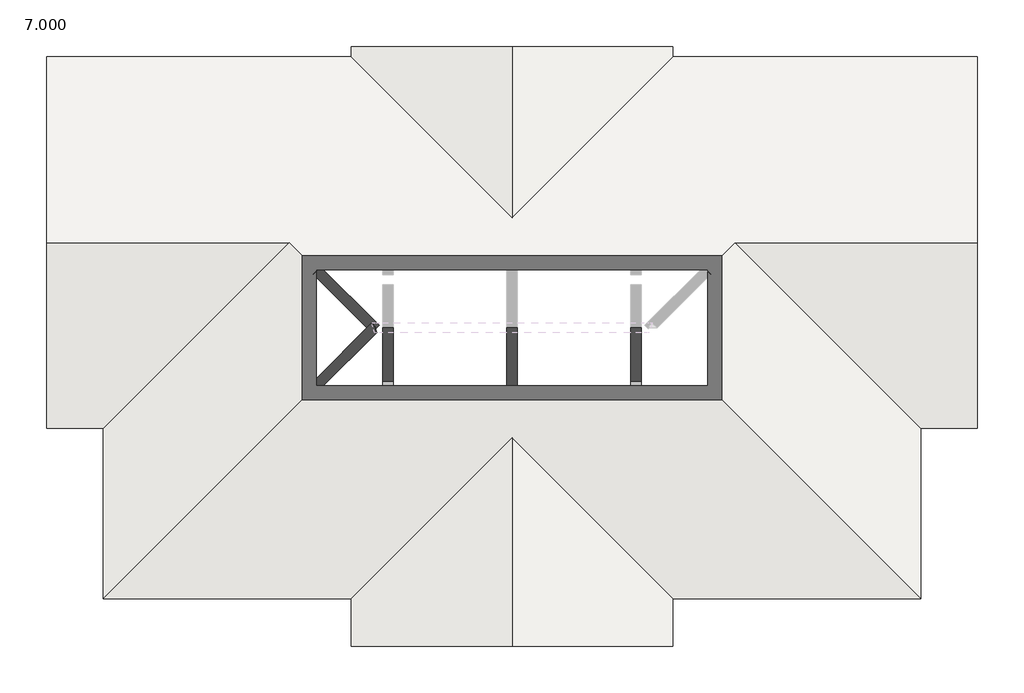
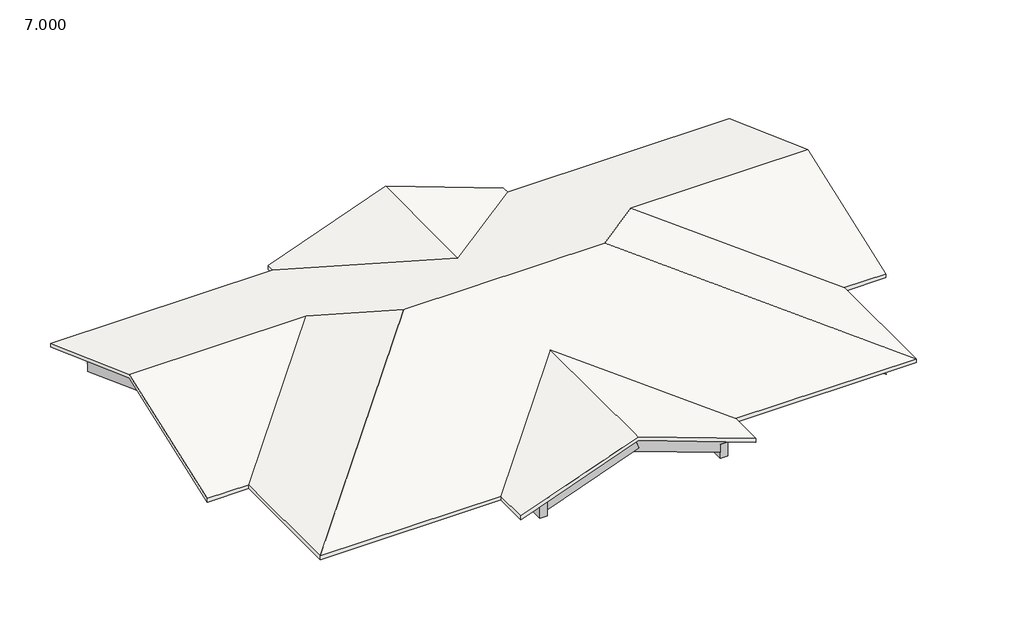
# One storey, part 1 of 2: 19 beams, 1 roof.
"""IFC4 building model written with IfcOpenShell, lengths in millimetres."""

import ifcopenshell
import ifcopenshell.guid

model = None  # the IFC model being written
_history = None  # IfcOwnerHistory: only IFC2X3 demands one
_inside = {}  # id of a spatial element -> (the spatial element, [elements in it])
_under = {}  # id of a project, library or spatial element -> (it, [spatial elements below it])
_declared = {}  # id of a project -> (the project, [libraries it declares])
_typed = {}  # id of a type object -> (the type object, [elements of that type])
_made_of = {}  # id of a material, layer set ... -> (it, [elements and type objects made of it])


def new_model(schema):
    """Start an empty IFC model of exactly this schema.

    Asked for "IFC4X3", IfcOpenShell would pick the latest addendum, in which some entities
    have other attributes; the version numbers below select the first issue.
    IFC2X3 requires an IfcOwnerHistory on every rooted entity: one is made here for all.
    """
    global model, _history
    if schema == "IFC4X3":
        model = ifcopenshell.file(schema_version=(4, 3, 0, 0))
    else:
        model = ifcopenshell.file(schema=schema)
    _inside.clear()
    _under.clear()
    _declared.clear()
    _typed.clear()
    _made_of.clear()
    _history = None
    if model.schema == "IFC2X3":
        org = make("IfcOrganization", Name="unknown")
        user = make(
            "IfcPersonAndOrganization",
            ThePerson=make("IfcPerson", FamilyName="unknown"),
            TheOrganization=org,
        )
        app = make(
            "IfcApplication",
            ApplicationDeveloper=org,
            Version="unknown",
            ApplicationFullName="unknown",
            ApplicationIdentifier="unknown",
        )
        _history = make(
            "IfcOwnerHistory",
            OwningUser=user,
            OwningApplication=app,
            ChangeAction="ADDED",
            CreationDate=0,
        )
    return model


def make(cls, **values):
    """One entity of the class cls with the attributes given. An attribute that is None is left unset."""
    return model.create_entity(
        cls, **{name: value for name, value in values.items() if value is not None}
    )


def rooted(cls, **values):
    """An entity with a GlobalId (a new one), such as an element, a storey or a relation."""
    return make(cls, GlobalId=ifcopenshell.guid.new(), OwnerHistory=_history, **values)


def si_unit(unit_type, name, prefix=None):
    """IfcSIUnit, for example si_unit("LENGTHUNIT", "METRE", prefix="MILLI")."""
    return make("IfcSIUnit", UnitType=unit_type, Prefix=prefix, Name=name)


def assignment(units):
    """IfcUnitAssignment: the units of a project."""
    return None if units is None else make("IfcUnitAssignment", Units=units)


def point(xyz):
    """IfcCartesianPoint."""
    return None if xyz is None else make("IfcCartesianPoint", Coordinates=xyz)


def direction(xyz):
    """IfcDirection."""
    return None if xyz is None else make("IfcDirection", DirectionRatios=xyz)


def frame(location, z_axis=None, x_axis=None):
    """IfcAxis2Placement3D, a coordinate frame: its origin and axes. An axis left out is left unset."""
    return make(
        "IfcAxis2Placement3D",
        Location=point(location),
        Axis=direction(z_axis),
        RefDirection=direction(x_axis),
    )


def origin():
    """The frame at (0, 0, 0) with its axes left unset."""
    return frame((0.0, 0.0, 0.0))


def place(relative_to, where):
    """IfcLocalPlacement: puts the frame where relative to a parent placement (None: the world)."""
    return make(
        "IfcLocalPlacement", PlacementRelTo=relative_to, RelativePlacement=where
    )


def context(
    kind, dimensions, precision=None, world=None, true_north=None, identifier=None
):
    """IfcGeometricRepresentationContext, for example the 3D "Model" context."""
    return make(
        "IfcGeometricRepresentationContext",
        ContextIdentifier=identifier,
        ContextType=kind,
        CoordinateSpaceDimension=dimensions,
        Precision=precision,
        WorldCoordinateSystem=world,
        TrueNorth=true_north,
    )


def project(units=None, contexts=None):
    """IfcProject with its units and contexts."""
    return rooted(
        "IfcProject",
        Name="project",
        RepresentationContexts=contexts,
        UnitsInContext=assignment(units),
    )


def spatial(cls, under=None, at=None, **own):
    """A site, building, storey or space (cls), placed at a placement, below another one or the project."""
    s = rooted(cls, ObjectPlacement=at, **own)
    if under is not None:
        _under.setdefault(under.id(), (under, []))[1].append(s)
    return s


def polyline(points):
    """IfcPolyline through the points."""
    return make("IfcPolyline", Points=[point(p) for p in points])


def outline(outer, holes=None, kind="AREA"):
    """IfcArbitraryClosedProfileDef: a profile drawn as a closed curve; with holes, ...WithVoids."""
    if holes is None:
        return make("IfcArbitraryClosedProfileDef", ProfileType=kind, OuterCurve=outer)
    return make(
        "IfcArbitraryProfileDefWithVoids",
        ProfileType=kind,
        OuterCurve=outer,
        InnerCurves=holes,
    )


def extrude(swept, where, along, depth):
    """IfcExtrudedAreaSolid: the profile swept, set in the frame where, extruded along a direction by depth."""
    return make(
        "IfcExtrudedAreaSolid",
        SweptArea=swept,
        Position=where,
        ExtrudedDirection=direction(along),
        Depth=depth,
    )


def faces_of(points, faces, orient=None, outer=None):
    """IfcFace entities. A face is a list of loops; a loop is a list of indices into points, from 0.

    orient and outer hold one flag for each loop. By default every Orientation is true, the
    first loop of a face is its IfcFaceOuterBound and the others are IfcFaceBound.
    """
    made = []
    for i, loops in enumerate(faces):
        bounds = []
        for j, loop in enumerate(loops):
            is_outer = j == 0 if outer is None else outer[i][j]
            bounds.append(
                make(
                    "IfcFaceOuterBound" if is_outer else "IfcFaceBound",
                    Bound=make("IfcPolyLoop", Polygon=[points[k] for k in loop]),
                    Orientation=True if orient is None else orient[i][j],
                )
            )
        made.append(make("IfcFace", Bounds=bounds))
    return made


def faceted_brep(points, faces, orient=None, outer=None, voids=None):
    """IfcFacetedBrep: a solid bounded by flat faces; with voids (closed shells), ...WithVoids."""
    shared = [point(p) for p in points]
    hull = make("IfcClosedShell", CfsFaces=faces_of(shared, faces, orient, outer))
    if voids is None:
        return make("IfcFacetedBrep", Outer=hull)
    return make(
        "IfcFacetedBrepWithVoids",
        Outer=hull,
        Voids=[
            make(cls, CfsFaces=faces_of(shared, fs, o, b)) for cls, fs, o, b in voids
        ],
    )


def shape(context_of_items, identifier, shape_type, items):
    """IfcShapeRepresentation: the items that make up one representation, for example the "Body"."""
    return make(
        "IfcShapeRepresentation",
        ContextOfItems=context_of_items,
        RepresentationIdentifier=identifier,
        RepresentationType=shape_type,
        Items=items,
    )


def made_of(thing, what):
    """Note that an element or type object is made of a material, layer set ...; save() writes the relation."""
    if what is not None:
        _made_of.setdefault(what.id(), (what, []))[1].append(thing)
    return thing


def element(
    cls,
    number,
    at=None,
    inside=None,
    cuts=None,
    type_object=None,
    material=None,
    context=None,
    identifier="Body",
    shape_type=None,
    held_by="IfcProductDefinitionShape",
    body=None,
    shapes=None,
    **own,
):
    """One element of the class cls, such as IfcWall. Its Tag is "e" and its number.

    at: its placement. inside: the storey or other place that contains it. cuts: it is an
    opening in that element (IfcRelVoidsElement). A single representation is given by context,
    identifier, shape_type and body (its items); several are given by shapes. held_by: the class
    of the entity that holds the representations. save() writes the other relations.
    """
    e = rooted(cls, Tag="e%d" % number, ObjectPlacement=at, **own)
    if body is not None:
        shapes = [shape(context, identifier, shape_type, body)]
    if shapes is not None:
        e.Representation = make(held_by, Representations=shapes)
    if inside is not None:
        _inside.setdefault(inside.id(), (inside, []))[1].append(e)
    if cuts is not None:
        rooted(
            "IfcRelVoidsElement", RelatingBuildingElement=cuts, RelatedOpeningElement=e
        )
    if type_object is not None:
        _typed.setdefault(type_object.id(), (type_object, []))[1].append(e)
    return made_of(e, material)


def aggregate(whole, parts):
    """IfcRelAggregates: a whole, such as a stair, and the parts it consists of."""
    return rooted("IfcRelAggregates", RelatingObject=whole, RelatedObjects=parts)


def save(model, path):
    """Write the relations noted so far, then the file.

    IfcRelAggregates (storeys below a building ...), IfcRelContainedInSpatialStructure (elements
    in a storey), IfcRelDefinesByType, IfcRelAssociatesMaterial and IfcRelDeclares: one each for
    every whole, place, type object, material and project.
    """
    for whole, parts in _under.values():
        aggregate(whole, parts)
    for where, things in _inside.values():
        rooted(
            "IfcRelContainedInSpatialStructure",
            RelatedElements=things,
            RelatingStructure=where,
        )
    for kind, things in _typed.values():
        rooted("IfcRelDefinesByType", RelatedObjects=things, RelatingType=kind)
    for what, things in _made_of.values():
        rooted("IfcRelAssociatesMaterial", RelatedObjects=things, RelatingMaterial=what)
    for by, libraries in _declared.values():
        rooted("IfcRelDeclares", RelatingContext=by, RelatedDefinitions=libraries)
    model.write(path)


model = new_model("IFC4")

# Units and contexts
model_context = context("Model", 3, world=origin())
ifc_project = project(units=[si_unit("LENGTHUNIT", "METRE", prefix="MILLI")], contexts=[model_context])

# Site, building, storey
site = spatial("IfcSite", under=ifc_project)
building = spatial("IfcBuilding", under=site)
storey = spatial("IfcBuildingStorey", under=building, Name="7.000", Elevation=7000.0)

# Beams
placement = place(None, origin())
element("IfcBeam", 1, ObjectType="混凝土 - 矩形梁 : 200 x 400mm", at=placement, inside=storey, context=model_context, shape_type="Brep", body=[
    faceted_brep([(-13418.804129, 2600.2421091, 8004.2928434), (-13418.804129, 80.2421091, 7159.8818999), (-13218.804129, 80.2421091, 7159.8818999), (-13218.804129, 2500.2421091, 7970.7844726), (-13218.804129, 2600.2421091, 8004.2928434), (-13218.804129, 280.2421091, 7159.8818999), (-13218.804129, 280.2421091, 6805.0396903), (-13218.804129, 2593.8162411, 7580.2806886), (-13218.804129, 2727.3305426, 7625.0191558), (-13418.804129, 2727.3305426, 7625.0191558), (-13418.804129, 280.2421091, 6805.0396903), (-13418.804129, 2593.8162411, 7580.2806886), (-13418.804129, 280.2421091, 7159.8818999)], [[[0, 1, 2, 3, 4]], [[4, 3, 2, 5, 6, 7, 8]], [[9, 8, 7, 6, 10, 11]], [[1, 0, 9, 11, 10, 12]], [[5, 12, 10, 6]], [[12, 5, 2, 1]], [[0, 4, 8, 9]]]),
])
element("IfcBeam", 2, ObjectType="混凝土 - 矩形梁 : 200 x 400mm", at=placement, inside=storey, context=model_context, shape_type="Brep", body=[
    faceted_brep([(-13418.804129, 4880.2421091, 7162.6295294), (-13418.804129, 2600.2421091, 8004.2928434), (-13218.804129, 2600.2421091, 8004.2928434), (-13218.804129, 2700.2421091, 7967.3777857), (-13218.804129, 4880.2421091, 7162.6295294), (-13218.804129, 2727.3305426, 7625.0191558), (-13218.804129, 2593.8162411, 7580.2806886), (-13218.804129, 4880.2421091, 6736.2452618), (-13418.804129, 4880.2421091, 6736.2452618), (-13418.804129, 2593.8162411, 7580.2806886), (-13418.804129, 2727.3305426, 7625.0191558)], [[[0, 1, 2, 3, 4]], [[4, 3, 2, 5, 6, 7]], [[8, 7, 6, 9]], [[1, 0, 8, 9, 10]], [[0, 4, 7, 8]], [[5, 10, 9, 6]], [[10, 5, 2, 1]]]),
])
element("IfcBeam", 3, ObjectType="混凝土 - 矩形梁 : 200 x 400mm", at=placement, inside=storey, context=model_context, shape_type="Brep", body=[
    faceted_brep([(-7118.804129, -3099.7578909, 7043.1568194), (-6918.804129, -3099.7578909, 7043.1568194), (-6918.804129, 850.2421091, 8566.2835593), (-7118.804129, 850.2421091, 8566.2835593), (-7118.804129, 950.2421091, 8176.1361511), (-7118.804129, -3099.7578909, 6614.4492406), (-7118.804129, 850.2421091, 8204.8437299), (-7118.804129, 950.2421091, 8204.8437299), (-7118.804129, 950.2421091, 8179.736715), (-6918.804129, 950.2421091, 8176.1361511), (-6918.804129, -3099.7578909, 6614.4492406), (-6918.804129, 950.2421091, 8179.736715), (-6918.804129, 950.2421091, 8204.8437299), (-6918.804129, 850.2421091, 8204.8437299)], [[[0, 1, 2, 3]], [[4, 5, 0, 3, 6, 7, 8]], [[9, 10, 5, 4]], [[10, 9, 11, 12, 13, 2, 1]], [[1, 0, 5, 10]], [[9, 4, 8, 7, 12, 11]], [[13, 6, 3, 2]], [[6, 13, 12, 7]]]),
])
element("IfcBeam", 4, ObjectType="混凝土 - 矩形梁 : 200 x 400mm", at=placement, inside=storey, context=model_context, shape_type="Brep", body=[
    faceted_brep([(-2318.804129, -3099.7578909, 7015.7932597), (-2118.804129, -3099.7578909, 7015.7932597), (-2118.804129, 850.2421091, 8573.2767595), (-2318.804129, 850.2421091, 8573.2767595), (-2318.804129, 950.2421091, 8182.7351522), (-2318.804129, -3099.7578909, 6585.8216903), (-2318.804129, 850.2421091, 8204.8437299), (-2318.804129, 950.2421091, 8204.8437299), (-2318.804129, 950.2421091, 8189.0957901), (-2118.804129, 950.2421091, 8182.7351522), (-2118.804129, -3099.7578909, 6585.8216903), (-2118.804129, 950.2421091, 8189.0957901), (-2118.804129, 950.2421091, 8204.8437299), (-2118.804129, 850.2421091, 8204.8437299)], [[[0, 1, 2, 3]], [[4, 5, 0, 3, 6, 7, 8]], [[5, 4, 9, 10]], [[10, 9, 11, 12, 13, 2, 1]], [[1, 0, 5, 10]], [[13, 6, 3, 2]], [[6, 13, 12, 7]], [[9, 4, 8, 7, 12, 11]]]),
    faceted_brep([(-2318.804129, 950.2421091, 8612.7067216), (-2118.804129, 950.2421091, 8612.7067216), (-2118.804129, 950.2421091, 8604.8437299), (-2318.804129, 950.2421091, 8604.8437299), (-2118.804129, 930.3004423, 8604.8437299), (-2318.804129, 930.3004423, 8604.8437299)], [[[0, 1, 2, 3]], [[4, 5, 3, 2]], [[1, 0, 5, 4]], [[0, 3, 5]], [[1, 4, 2]]]),
])
element("IfcBeam", 5, ObjectType="混凝土 - 矩形梁 : 200 x 400mm", at=placement, inside=storey, context=model_context, shape_type="Brep", body=[
    faceted_brep([(-7333.6516851, 1046.8159093, 8614.2571365), (-12020.88562, -3640.4180256, 6908.2435031), (-11961.5457547, -3699.7578909, 6908.2435031), (-11938.804129, -3699.7578909, 6912.3821406), (-11868.0934509, -3770.468569, 6912.3821406), (-7270.9988323, 826.6260496, 8585.5877458), (-7302.3775651, 936.9048073, 8599.9463761), (-7306.1725628, 950.2421091, 8601.6829334), (-7239.767191, 857.8576909, 8183.9200909), (-11797.3827728, -3699.7578909, 6912.3821406), (-11797.3827728, -3699.7578909, 6800.0), (-11797.3827728, -3699.7578909, 6525.0836799), (-11718.804129, -3621.1792471, 6553.6839673), (-12020.88562, -3640.4180256, 6495.2084604), (-11918.804129, -3538.3365347, 6532.3630846), (-11718.804129, -3338.3365347, 6605.1571315), (-7430.2254852, 950.2421091, 8166.0721051), (-7302.4200438, 1078.0475506, 8212.5894816), (-7294.5082796, 1050.2421091, 8208.9691284), (-7285.4928113, 1018.5577625, 8204.8437299), (-7266.054266, 950.2421091, 8195.9488237), (-11918.804129, -3699.7578909, 6502.9868002), (-11961.5457547, -3699.7578909, 6495.2084604), (-7330.9186001, 1049.5489943, 8579.1071478), (-7330.2254852, 1050.2421091, 8570.1930533)], [[[0, 1, 2, 3, 4, 5, 6, 7]], [[8, 5, 4, 9, 10, 11, 12]], [[13, 14, 15, 16, 17, 18, 19, 20, 8, 12, 11, 21, 22]], [[1, 0, 23, 24, 17, 16, 15, 14, 13]], [[1, 13, 22, 2]], [[9, 3, 2, 22, 21, 11, 10]], [[3, 9, 4]], [[0, 7, 6, 5, 8, 20, 19, 18, 17, 24, 23]]]),
])
element("IfcBeam", 6, ObjectType="混凝土 - 矩形梁 : 200 x 400mm", at=placement, inside=storey, context=model_context, shape_type="Brep", body=[
    faceted_brep([(-7288.804129, 950.2421091, 8604.8437299), (-7151.7754868, 954.6348231, 8628.9814948), (-7218.0934509, 1020.9527872, 8604.8437299), (-7147.3827728, 950.2421091, 8604.8437299)], [[[0, 1, 2]], [[2, 1, 3]], [[1, 0, 3]], [[0, 2, 3]]]),
    faceted_brep([(-7360.1352738, 880.1518977, 8579.1071478), (-7364.489443, 884.5060668, 8603.0331105), (-7430.2254852, 950.2421091, 8579.1071478), (-7302.3775651, 936.9048073, 8599.9463761), (-7303.0823268, 937.8408628, 8604.5021526), (-7306.1725628, 950.2421091, 8601.6829334)], [[[0, 1, 2]], [[1, 0, 3, 4]], [[2, 5, 3, 0]], [[2, 1, 4, 5]], [[5, 4, 3]]]),
    faceted_brep([(-7430.2254852, 950.2421091, 8166.0721051), (-9080.2254852, 2600.2421091, 7565.5212186), (-8840.4695794, 2600.2421091, 7609.1532252), (-8941.0695596, 2500.2421091, 7609.0440377), (-8697.3827728, 2500.2421091, 7653.3914061), (-7182.2799654, 985.1393017, 8204.8437299), (-7256.3042761, 911.1149909, 8204.8437299), (-7266.054266, 950.2421091, 8195.9488237), (-7302.4200438, 1078.0475506, 8212.5894816), (-7285.4928113, 1018.5577625, 8204.8437299), (-7294.5082796, 1050.2421091, 8208.9691284), (-7330.2254852, 1050.2421091, 8570.1930533), (-7330.9186001, 1049.5489943, 8579.1071478), (-7430.2254852, 950.2421091, 8579.1071478), (-8996.6260306, 2516.6426544, 8008.9839744), (-8980.2254852, 2500.2421091, 8009.0017749), (-8980.2254852, 2500.2421091, 7609.0015393), (-9080.2254852, 2600.2421091, 7608.893003), (-7294.1003673, 1050.2421091, 8204.8437299), (-7247.3827728, 1050.2421091, 8204.8437299), (-7247.3827728, 1050.2421091, 8594.1832886), (-7331.0913156, 1050.2421091, 8578.9495796), (-8797.3827728, 2600.2421091, 8030.0294254), (-8912.5249957, 2600.2421091, 8009.0752545), (-8697.3827728, 2500.2421091, 8009.3087619), (-8797.3827728, 2600.2421091, 8009.2002256)], [[[0, 1, 2, 3, 4, 5, 6, 7]], [[8, 0, 7, 9, 10]], [[0, 8, 11, 12, 13]], [[8, 10, 11]], [[1, 0, 13, 14, 15, 16, 17]], [[18, 9, 6, 5, 19]], [[10, 18, 19, 20, 21, 11]], [[11, 21, 12]], [[13, 12, 21, 20, 22, 23, 14]], [[22, 20, 19, 5, 4, 24, 25]], [[7, 6, 9]], [[9, 18, 10]], [[23, 22, 25]], [[24, 15, 14, 23, 25]], [[15, 24, 4, 3, 16]], [[16, 3, 2, 17]], [[2, 1, 17]]]),
])
element("IfcBeam", 7, ObjectType="混凝土 - 矩形梁 : 200 x 400mm", at=placement, inside=storey, context=model_context, shape_type="SweptSolid", body=[
    extrude(outline(polyline([(-11618.804129, -3919.7578909), (-11618.804129, -3719.7578909), (-7138.804129, -3719.7578909), (-7138.804129, -3919.7578909), (-11618.804129, -3919.7578909)])), frame((0.0, 0.0, 6400.0), z_axis=(0.0, 0.0, 1.0), x_axis=(1.0, 0.0, 0.0)), (0.0, 0.0, 1.0), 400.0),
])
element("IfcBeam", 8, ObjectType="混凝土 - 矩形梁 : 200 x 400mm", at=placement, inside=storey, context=model_context, shape_type="Brep", body=[
    faceted_brep([(-11718.804129, 180.2421091, 6800.0), (-11918.804129, 180.2421091, 6800.0), (-11918.804129, -19.7578909, 6800.0), (-11918.804129, -3538.3365347, 6800.0), (-11718.804129, -3338.3365347, 6800.0), (-11718.804129, -321.1792471, 6800.0), (-11718.804129, -38.3365347, 6800.0), (-11718.804129, -3699.7578909, 6800.0), (-11718.804129, -3699.7578909, 6400.0), (-11718.804129, 180.2421091, 6400.0), (-11718.804129, -3338.3365347, 6605.1571315), (-11718.804129, -3621.1792471, 6553.6839673), (-11718.804129, -3621.1792471, 6800.0), (-11918.804129, -3699.7578909, 6400.0), (-11918.804129, -19.7578909, 6400.0), (-11918.804129, 180.2421091, 6400.0), (-11918.804129, -3699.7578909, 6502.9868002), (-11918.804129, -3538.3365347, 6532.3630846), (-11797.3827728, -3699.7578909, 6800.0), (-11797.3827728, -3699.7578909, 6525.0836799)], [[[0, 1, 2, 3, 4, 5, 6]], [[7, 8, 9, 0, 6, 5, 4, 10, 11, 12]], [[8, 13, 14, 15, 9]], [[1, 15, 14, 13, 16, 17, 3, 2]], [[8, 7, 18, 19, 16, 13]], [[11, 19, 18, 12]], [[19, 11, 10, 17, 16]], [[17, 10, 4, 3]], [[1, 0, 9, 15]], [[18, 7, 12]]]),
])
element("IfcBeam", 9, ObjectType="混凝土 - 矩形梁 : 200 x 400mm", at=placement, inside=storey, context=model_context, shape_type="SweptSolid", body=[
    extrude(outline(polyline([(-13198.804129, -19.7578909), (-13198.804129, 180.2421091), (-11918.804129, 180.2421091), (-11918.804129, -19.7578909), (-13198.804129, -19.7578909)])), frame((0.0, 0.0, 6400.0), z_axis=(0.0, 0.0, 1.0), x_axis=(1.0, 0.0, 0.0)), (0.0, 0.0, 1.0), 400.0),
])
element("IfcBeam", 10, ObjectType="混凝土 - 矩形梁 : 200 x 400mm", at=placement, inside=storey, context=model_context, shape_type="Brep", body=[
    faceted_brep([(2481.195871, -19.7578909, 6800.0), (2481.195871, -38.544674, 6800.0), (2481.195871, -321.3982513, 6800.0), (2481.195871, -3305.7785462, 6800.0), (2672.8600267, -3699.7578909, 6800.0), (2681.195871, -3699.7578909, 6800.0), (2681.195871, -19.7578909, 6800.0), (2481.195871, -19.7578909, 6400.0), (2481.195871, -3597.0695635, 6400.0), (2681.195871, -19.7578909, 6400.0), (2590.5319359, -3699.7578909, 6567.6121083), (2531.151971, -3699.7578909, 6400.0), (2681.195871, -3699.7578909, 6400.0)], [[[0, 1, 2, 3, 4, 5, 6]], [[3, 2, 1, 0, 7, 8]], [[0, 6, 9, 7]], [[5, 4, 10, 11, 12]], [[3, 8, 11, 10, 4]], [[8, 7, 9, 12, 11]], [[9, 6, 5, 12]]]),
    faceted_brep([(2681.195871, -4008.1838309, 6400.0), (2647.9078314, -3939.7578909, 6400.0), (2681.195871, -3939.7578909, 6400.0), (2681.195871, -3939.7578909, 6493.962307)], [[[0, 1, 2]], [[3, 0, 2]], [[2, 1, 3]], [[1, 0, 3]]]),
])
element("IfcBeam", 11, ObjectType="混凝土 - 矩形梁 : 200 x 400mm", at=placement, inside=storey, context=model_context, shape_type="SweptSolid", body=[
    extrude(outline(polyline([(-2098.804129, -3919.7578909), (-2098.804129, -3719.7578909), (2381.195871, -3719.7578909), (2381.195871, -3919.7578909), (-2098.804129, -3919.7578909)])), frame((0.0, 0.0, 6400.0), z_axis=(0.0, 0.0, 1.0), x_axis=(1.0, 0.0, 0.0)), (0.0, 0.0, 1.0), 400.0),
])
element("IfcBeam", 12, ObjectType="混凝土 - 矩形梁 : 200 x 400mm", at=placement, inside=storey, context=model_context, shape_type="Brep", body=[
    faceted_brep([(-11818.804129, -138.3365347, 7024.657718), (-11818.804129, -421.1792471, 6975.342282), (-8897.3827728, 2500.2421091, 7994.0792821), (-9180.2254852, 2500.2421091, 7944.763846), (-9180.2254852, 2500.2421091, 7608.7844668), (-9080.2254852, 2600.2421091, 7608.893003), (-9080.2254852, 2600.2421091, 7567.6544838), (-11718.804129, -38.3365347, 6647.5483559), (-11718.804129, -38.3365347, 6800.0), (-11818.804129, -138.3365347, 6800.0), (-8842.2254091, 2600.2421091, 7609.1513195), (-8819.7340871, 2577.8907948, 7609.1757307), (-11718.804129, -321.1792471, 6598.2329198), (-8897.3827728, 2500.2421091, 7609.0914537), (-11818.804129, -421.1792471, 6800.0), (-11718.804129, -321.1792471, 6800.0)], [[[0, 1, 2, 3]], [[0, 3, 4, 5, 6, 7, 8, 9]], [[10, 11, 12, 7, 6]], [[13, 2, 1, 14, 15, 12, 11]], [[1, 0, 9, 14]], [[13, 4, 3, 2]], [[4, 13, 11, 10, 5]], [[8, 15, 14, 9]], [[15, 8, 7, 12]], [[5, 10, 6]]]),
    faceted_brep([(-8797.3827728, 2600.2421091, 8028.9505614), (-8797.3827728, 2600.2421091, 8009.2002256), (-8911.3679866, 2600.2421091, 8009.0765103), (-8854.1974373, 2543.4274446, 8009.1385611)], [[[0, 1, 2]], [[3, 2, 1]], [[2, 3, 0]], [[1, 0, 3]]]),
])
element("IfcBeam", 13, ObjectType="混凝土 - 矩形梁 : 200 x 400mm", at=placement, inside=storey, context=model_context, shape_type="Brep", body=[
    faceted_brep([(-6918.804129, -5019.7578909, 6800.0), (-7074.7779346, -5019.7578909, 6800.0), (-7118.804129, -5019.7578909, 6800.0), (-7118.804129, -5019.7578909, 6400.0), (-6918.804129, -5019.7578909, 6400.0), (-6918.804129, -5019.7578909, 6566.7844831), (-6918.804129, -4819.7578909, 6800.0), (-6918.804129, -3939.7578909, 6800.0), (-7118.804129, -3939.7578909, 6800.0), (-7118.804129, -3939.7578909, 6400.0), (-6918.804129, -3939.7578909, 6400.0)], [[[0, 1, 2, 3, 4, 5]], [[2, 1, 0, 6, 7, 8]], [[3, 2, 8, 9]], [[4, 3, 9, 10]], [[0, 5, 4, 10, 7, 6]], [[8, 7, 10, 9]]]),
])
element("IfcBeam", 14, ObjectType="混凝土 - 矩形梁 : 200 x 400mm", at=placement, inside=storey, context=model_context, shape_type="Brep", body=[
    faceted_brep([(-2318.804129, -5019.7578909, 6800.0), (-2318.804129, -5019.7578909, 6566.7844831), (-2318.804129, -5019.7578909, 6400.0), (-2118.804129, -5019.7578909, 6400.0), (-2118.804129, -5019.7578909, 6800.0), (-2162.8303235, -5019.7578909, 6800.0), (-2118.804129, -3939.7578909, 6800.0), (-2318.804129, -3939.7578909, 6800.0), (-2318.804129, -4819.7578909, 6800.0), (-2118.804129, -3939.7578909, 6400.0), (-2318.804129, -3939.7578909, 6400.0)], [[[0, 1, 2, 3, 4, 5]], [[6, 7, 8, 0, 5, 4]], [[9, 6, 4, 3]], [[10, 9, 3, 2]], [[7, 10, 2, 1, 0, 8]], [[7, 6, 9, 10]]]),
])
element("IfcBeam", 15, ObjectType="混凝土 - 矩形梁 : 200 x 400mm", at=placement, inside=storey, context=model_context, shape_type="Brep", body=[
    faceted_brep([(-7118.3865003, -5019.7578909, 6919.8135497), (-7118.3865003, -4819.7578909, 6919.8135497), (-7074.7779346, -4819.7578909, 6800.0), (-7074.7779346, -5019.7578909, 6800.0), (-4618.804129, -5019.7578909, 7829.5871309), (-4618.804129, -4819.7578909, 7829.5871309), (-4718.804129, -4819.7578909, 7793.1901075), (-4481.9960717, -4819.7578909, 7453.7100826), (-4618.804129, -4819.7578909, 7403.9160219), (-6918.804129, -4819.7578909, 6566.7844831), (-6918.804129, -4819.7578909, 6800.0), (-4481.9960717, -5019.7578909, 7453.7100826), (-4618.804129, -5019.7578909, 7403.9160219), (-6918.804129, -5019.7578909, 6566.7844831), (-6918.804129, -5019.7578909, 6800.0)], [[[0, 1, 2, 3]], [[1, 0, 4, 5, 6]], [[1, 6, 5, 7, 8, 9, 10, 2]], [[7, 11, 12, 13, 9, 8]], [[4, 0, 3, 14, 13, 12, 11]], [[10, 14, 3, 2]], [[14, 10, 9, 13]], [[4, 11, 7, 5]]]),
])
element("IfcBeam", 16, ObjectType="混凝土 - 矩形梁 : 200 x 400mm", at=placement, inside=storey, context=model_context, shape_type="Brep", body=[
    faceted_brep([(-2119.2217577, -4819.7578909, 6919.8135497), (-2119.2217577, -5019.7578909, 6919.8135497), (-2162.8303235, -5019.7578909, 6800.0), (-2162.8303235, -4819.7578909, 6800.0), (-4518.804129, -4819.7578909, 7793.1901075), (-4618.804129, -4819.7578909, 7829.5871309), (-4618.804129, -5019.7578909, 7829.5871309), (-4481.9960717, -5019.7578909, 7453.7100826), (-4618.804129, -5019.7578909, 7403.9160219), (-2318.804129, -5019.7578909, 6566.7844831), (-2318.804129, -5019.7578909, 6800.0), (-2318.804129, -4819.7578909, 6566.7844831), (-4618.804129, -4819.7578909, 7403.9160219), (-2318.804129, -4819.7578909, 6800.0), (-4481.9960717, -4819.7578909, 7453.7100826)], [[[0, 1, 2, 3]], [[1, 0, 4, 5, 6]], [[1, 6, 7, 8, 9, 10, 2]], [[11, 9, 8, 12]], [[5, 4, 0, 3, 13, 11, 12, 14]], [[10, 13, 3, 2]], [[10, 9, 11, 13]], [[7, 14, 12, 8]], [[14, 7, 6, 5]]]),
])
element("IfcBeam", 17, ObjectType="混凝土 - 矩形梁 : 200 x 400mm", at=placement, inside=storey, context=model_context, shape_type="Brep", body=[
    faceted_brep([(-4718.804129, -1146.6081127, 7841.6526634), (-4651.7957407, -1213.2970252, 7817.3798843), (-4581.1905117, -1283.5656298, 7791.8042039), (-4518.804129, -1345.654573, 7769.2056767), (-4518.804129, -1279.7578909, 7793.1901075), (-4518.804129, 850.2421091, 8568.4467065), (-4718.804129, 850.2421091, 8568.4467065), (-4718.804129, 950.2421091, 8179.1726209), (-4718.804129, -1009.8000554, 7465.7756151), (-4718.804129, 850.2421091, 8204.8437299), (-4718.804129, 950.2421091, 8204.8437299), (-4518.804129, 950.2421091, 8179.1726209), (-4518.804129, -1138.3365347, 7418.9921627), (-4518.804129, -1208.8465157, 7393.3286283), (-4618.3029383, -1109.8220867, 7429.370573), (-4654.3823175, -1073.9147231, 7442.4397845), (-4696.4102974, -1032.0871199, 7457.663787), (-4518.804129, 950.2421091, 8204.8437299), (-4518.804129, 850.2421091, 8204.8437299), (-4518.804129, -1221.1792471, 7427.2125295)], [[[0, 1, 2, 3, 4, 5, 6]], [[7, 8, 0, 6, 9, 10]], [[8, 7, 11, 12, 13, 14, 15, 16]], [[13, 12, 11, 17, 18, 5, 4, 3, 19]], [[11, 7, 10, 17]], [[18, 9, 6, 5]], [[9, 18, 17, 10]], [[3, 2, 1, 0, 8, 16, 15, 14, 13, 19]]]),
])
element("IfcBeam", 18, ObjectType="混凝土 - 矩形梁 : 200 x 400mm", at=placement, inside=storey, context=model_context, shape_type="Brep", body=[
    faceted_brep([(-6898.804129, -3601.1792471, 6973.9984147), (-4718.804129, -1421.1792471, 7767.4535254), (-4618.804129, -1321.1792471, 7803.8505488), (-4585.3361834, -1287.7113015, 7816.0318849), (-4618.804129, -1250.2546181, 7816.7577757), (-4651.811737, -1213.3131358, 7817.4736823), (-4652.0701562, -1213.0239181, 7817.4792872), (-4718.804129, -1138.3365347, 7818.9266896), (-6898.804129, -3318.3365347, 7025.4715789), (-4673.4790985, -1093.0115042, 7554.0431035), (-4654.3823175, -1073.9147231, 7442.4397845), (-4652.2720747, -1071.8044803, 7430.1073342), (-6898.804129, -3318.3365347, 6612.4365361), (-4618.804129, -1109.2611637, 7429.3814434), (-4618.3029383, -1109.8220867, 7429.370573), (-4518.804129, -1221.1792471, 7427.2125295), (-4618.804129, -1321.1792471, 7390.8155061), (-6898.804129, -3601.1792471, 6560.963372), (-4581.1905117, -1283.5656298, 7791.8042039), (-4583.2517982, -1285.6269163, 7803.8505488)], [[[0, 1, 2, 3, 4, 5, 6, 7, 8]], [[8, 7, 9, 10, 11, 12]], [[12, 11, 13, 14, 15, 16, 17]], [[3, 2, 1, 0, 17, 16, 15, 18, 19]], [[6, 5, 4, 3, 19, 18, 15, 14, 13, 11, 10, 9, 7]], [[0, 8, 12, 17]]]),
])
element("IfcBeam", 19, ObjectType="混凝土 - 矩形梁 : 200 x 400mm", at=placement, inside=storey, context=model_context, shape_type="Brep", body=[
    faceted_brep([(-4718.804129, -1310.2986198, 7829.5871309), (-4718.804129, -4919.7578909, 7829.5871309), (-4618.804129, -4919.7578909, 7829.5871309), (-4518.804129, -4919.7578909, 7829.5871309), (-4518.804129, -1279.7578909, 7829.5871309), (-4618.804129, -1179.7578909, 7829.5871309), (-4518.804129, -4919.7578909, 7793.1901075), (-4518.804129, -4819.7578909, 7793.1901075), (-4518.804129, -4819.7578909, 7429.5871309), (-4518.804129, -1421.1792471, 7429.5871309), (-4518.804129, -1421.1792471, 7767.4535254), (-4518.804129, -1279.7578909, 7793.1901075), (-4718.804129, -4819.7578909, 7429.5871309), (-4718.804129, -1421.1792471, 7429.5871309), (-4618.804129, -1321.1792471, 7429.5871309), (-4718.804129, -1310.2986198, 7787.6321494), (-4718.804129, -1421.1792471, 7767.4535254), (-4718.804129, -4819.7578909, 7793.1901075), (-4718.804129, -4919.7578909, 7793.1901075), (-4680.1474573, -1259.8359188, 7826.1776944), (-4680.1474573, -1259.8359188, 7803.8505488), (-4618.804129, -4819.7578909, 7829.5871309), (-4618.804129, -1321.1792471, 7803.8505488), (-4585.3361834, -1287.7113015, 7816.0318849), (-4618.804129, -1250.2546181, 7816.7577757), (-4583.2517982, -1285.6269163, 7803.8505488)], [[[0, 1, 2, 3, 4, 5]], [[4, 3, 6, 7, 8, 9, 10, 11]], [[8, 12, 13, 14, 9]], [[1, 0, 15, 16, 13, 12, 17, 18]], [[0, 5, 19, 20, 15]], [[17, 21, 2, 18]], [[21, 17, 12, 8, 7]], [[2, 1, 18]], [[3, 2, 6]], [[21, 7, 6, 2]], [[5, 4, 11]], [[16, 15, 20, 22]], [[13, 16, 22, 14]], [[23, 24, 25]], [[10, 22, 25, 24, 22, 19, 5, 11]], [[22, 10, 9, 14]], [[24, 23, 22]], [[22, 23, 25]], [[19, 22, 20]]]),
])

# Roof
element("IfcRoof", 20, ObjectType="常规 - 100mm", at=placement, inside=storey, context=model_context, shape_type="Brep", body=[
    faceted_brep([(-1498.804129, -5219.7578909, 6694.0), (-4618.804129, -5219.7578909, 7829.5871309), (-4618.804129, -1179.7578909, 7829.5871309), (-1498.804129, -4299.7578909, 6694.0), (-12538.804129, -4299.7578909, 6694.0), (-7288.804129, 950.2421091, 8604.8437299), (-1948.804129, 950.2421091, 8604.8437299), (3301.195871, -4299.7578909, 6694.0), (-7738.804129, -4299.7578909, 6694.0), (-7738.804129, 6200.2421091, 6694.0), (-7738.804129, 6400.2421091, 6694.0), (-4618.804129, 6400.2421091, 7829.5871309), (-4618.804129, 3080.2421091, 7829.5871309), (-7738.804129, -5219.7578909, 6694.0), (-12538.804129, -999.7578909, 6694.0), (-13638.804129, -999.7578909, 6694.0), (-13638.804129, 2600.2421091, 8004.2928434), (-8938.804129, 2600.2421091, 8004.2928434), (4401.195871, -999.7578909, 6694.0), (3301.195871, -999.7578909, 6694.0), (-298.804129, 2600.2421091, 8004.2928434), (4401.195871, 2600.2421091, 8004.2928434), (-1498.804129, 6200.2421091, 6694.0), (4401.195871, 6200.2421091, 6694.0), (-13638.804129, 6200.2421091, 6694.0), (-1498.804129, 6400.2421091, 6694.0), (-1498.804129, -5219.7578909, 6800.4177772), (-1498.804129, -4299.7578909, 6800.4177772), (-4618.804129, -1179.7578909, 7936.0049082), (-4618.804129, -5219.7578909, 7936.0049082), (-12538.804129, -4299.7578909, 6800.4177772), (-7738.804129, -4299.7578909, 6800.4177772), (3301.195871, -4299.7578909, 6800.4177772), (-1948.804129, 950.2421091, 8711.2615071), (-7288.804129, 950.2421091, 8711.2615071), (-7738.804129, 6400.2421091, 6800.4177772), (-7738.804129, 6200.2421091, 6800.4177772), (-4618.804129, 3080.2421091, 7936.0049082), (-4618.804129, 6400.2421091, 7936.0049082), (-7738.804129, -5219.7578909, 6800.4177772), (-13638.804129, -999.7578909, 6800.4177772), (-12538.804129, -999.7578909, 6800.4177772), (-8938.804129, 2600.2421091, 8110.7106206), (-13638.804129, 2600.2421091, 8110.7106206), (3301.195871, -999.7578909, 6800.4177772), (4401.195871, -999.7578909, 6800.4177772), (4401.195871, 2600.2421091, 8110.7106206), (-298.804129, 2600.2421091, 8110.7106206), (-13638.804129, 6200.2421091, 6800.4177772), (4401.195871, 6200.2421091, 6800.4177772), (-1498.804129, 6200.2421091, 6800.4177772), (-1498.804129, 6400.2421091, 6800.4177772)], [[[0, 1, 2, 3]], [[4, 5, 6, 7, 3, 2, 8]], [[9, 10, 11, 12]], [[8, 2, 1, 13]], [[14, 15, 16, 17]], [[18, 19, 20, 21]], [[4, 14, 17, 5]], [[9, 12, 22, 23, 21, 20, 6, 5, 17, 16, 24]], [[25, 22, 12, 11]], [[19, 7, 6, 20]], [[26, 27, 28, 29]], [[30, 31, 28, 27, 32, 33, 34]], [[35, 36, 37, 38]], [[31, 39, 29, 28]], [[40, 41, 42, 43]], [[44, 45, 46, 47]], [[41, 30, 34, 42]], [[36, 48, 43, 42, 34, 33, 47, 46, 49, 50, 37]], [[51, 38, 37, 50]], [[32, 44, 47, 33]], [[9, 36, 35, 10]], [[24, 48, 36, 9]], [[14, 41, 40, 15]], [[4, 30, 41, 14]], [[8, 31, 30, 4]], [[13, 39, 31, 8]], [[3, 27, 26, 0]], [[7, 32, 27, 3]], [[19, 44, 32, 7]], [[18, 45, 44, 19]], [[22, 50, 49, 23]], [[25, 51, 50, 22]], [[35, 38, 51, 25, 11, 10]], [[49, 46, 45, 18, 21, 23]], [[26, 29, 39, 13, 1, 0]], [[40, 43, 48, 24, 16, 15]]]),
])

save(model, "model.ifc")
